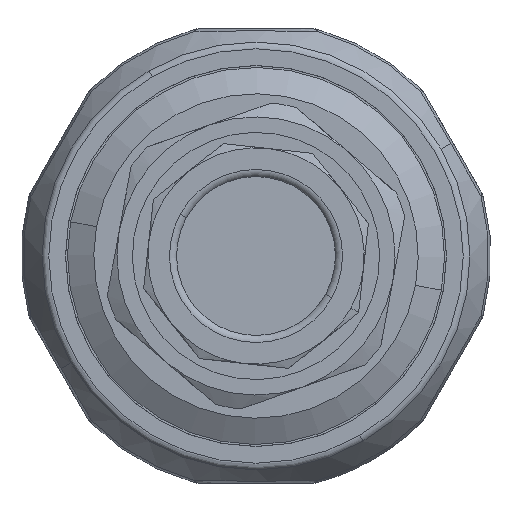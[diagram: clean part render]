
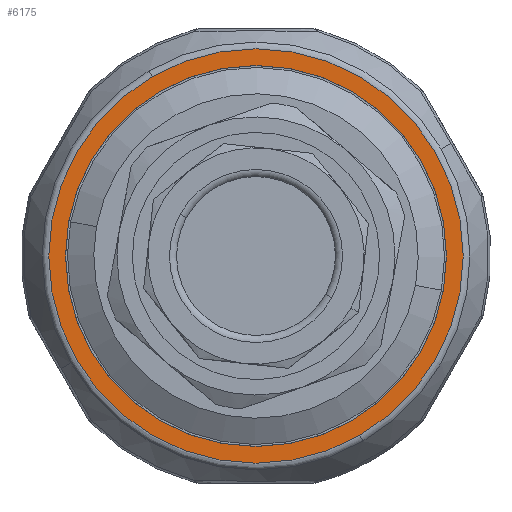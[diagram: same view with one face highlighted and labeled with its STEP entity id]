
A CAD part, front view. The second image highlights one B-rep face of the part: STEP entity #6175.
In plain terms, the highlighted planar face has unit normal (0, -1, 0).
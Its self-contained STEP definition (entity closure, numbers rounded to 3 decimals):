
#186 = AXIS2_PLACEMENT_3D ( 'NONE', #8115, #8116, #8117 ) ;
#232 = AXIS2_PLACEMENT_3D ( 'NONE', #8806, #8807, #8808 ) ;
#233 = AXIS2_PLACEMENT_3D ( 'NONE', #8811, #8812, #8813 ) ;
#351 = EDGE_LOOP ( 'NONE', ( #2848, #2849 ) ) ;
#359 = EDGE_LOOP ( 'NONE', ( #2850, #2851 ) ) ;
#1004 = AXIS2_PLACEMENT_3D ( 'NONE', #5632, #5633, #5634 ) ;
#1223 = CARTESIAN_POINT ( 'NONE',  ( -6.706, -1.55, 11.615 ) ) ;
#1296 = CARTESIAN_POINT ( 'NONE',  ( 6.706, -1.55, -11.615 ) ) ;
#2316 = EDGE_CURVE ( 'NONE', #5901, #3749, #6065, .T. ) ;
#2430 = FACE_OUTER_BOUND ( 'NONE', #351, .T. ) ;
#2434 = FACE_BOUND ( 'NONE', #359, .T. ) ;
#2848 = ORIENTED_EDGE ( 'NONE', *, *, #2316, .T. ) ;
#2849 = ORIENTED_EDGE ( 'NONE', *, *, #6812, .T. ) ;
#2850 = ORIENTED_EDGE ( 'NONE', *, *, #6734, .T. ) ;
#2851 = ORIENTED_EDGE ( 'NONE', *, *, #6813, .T. ) ;
#2969 = CIRCLE ( 'NONE', #186, 12.325 ) ;
#3081 = CIRCLE ( 'NONE', #232, 13.411 ) ;
#3082 = CIRCLE ( 'NONE', #233, 12.325 ) ;
#3281 = CARTESIAN_POINT ( 'NONE',  ( 10.674, -1.55, 6.163 ) ) ;
#3282 = CARTESIAN_POINT ( 'NONE',  ( -10.674, -1.55, -6.163 ) ) ;
#3749 = VERTEX_POINT ( 'NONE', #1296 ) ;
#3784 = VERTEX_POINT ( 'NONE', #3281 ) ;
#3785 = VERTEX_POINT ( 'NONE', #3282 ) ;
#4149 = AXIS2_PLACEMENT_3D ( 'NONE', #5182, #5183, #5184 ) ;
#5182 = CARTESIAN_POINT ( 'NONE',  ( 0., -1.55, 0. ) ) ;
#5183 = DIRECTION ( 'NONE',  ( 0., -1., 0. ) ) ;
#5184 = DIRECTION ( 'NONE',  ( -0.5, 0., 0.866 ) ) ;
#5625 = PLANE ( 'NONE',  #1004 ) ;
#5632 = CARTESIAN_POINT ( 'NONE',  ( -13.164, -1.55, -7.6 ) ) ;
#5633 = DIRECTION ( 'NONE',  ( 0., -1., 0. ) ) ;
#5634 = DIRECTION ( 'NONE',  ( -0.5, 0., 0.866 ) ) ;
#5901 = VERTEX_POINT ( 'NONE', #1223 ) ;
#6065 = CIRCLE ( 'NONE', #4149, 13.411 ) ;
#6175 = ADVANCED_FACE ( 'NONE', ( #2430, #2434 ), #5625, .T. ) ;
#6734 = EDGE_CURVE ( 'NONE', #3784, #3785, #2969, .T. ) ;
#6812 = EDGE_CURVE ( 'NONE', #3749, #5901, #3081, .T. ) ;
#6813 = EDGE_CURVE ( 'NONE', #3785, #3784, #3082, .T. ) ;
#8115 = CARTESIAN_POINT ( 'NONE',  ( 0., -1.55, 0. ) ) ;
#8116 = DIRECTION ( 'NONE',  ( 0., 1., 0. ) ) ;
#8117 = DIRECTION ( 'NONE',  ( -0.866, 0., -0.5 ) ) ;
#8806 = CARTESIAN_POINT ( 'NONE',  ( 0., -1.55, 0. ) ) ;
#8807 = DIRECTION ( 'NONE',  ( 0., -1., 0. ) ) ;
#8808 = DIRECTION ( 'NONE',  ( -0.5, 0., 0.866 ) ) ;
#8811 = CARTESIAN_POINT ( 'NONE',  ( 0., -1.55, 0. ) ) ;
#8812 = DIRECTION ( 'NONE',  ( 0., 1., 0. ) ) ;
#8813 = DIRECTION ( 'NONE',  ( -0.866, 0., -0.5 ) ) ;
